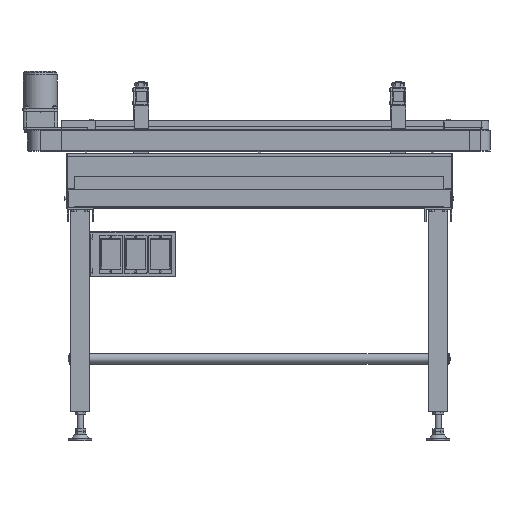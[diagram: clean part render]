
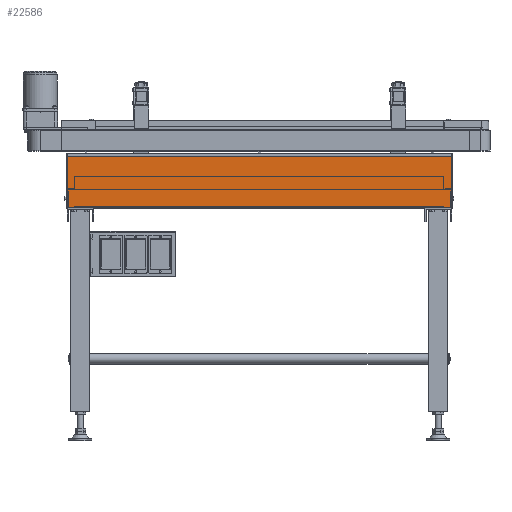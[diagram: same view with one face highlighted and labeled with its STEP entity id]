
A CAD part, top view. The second image highlights one B-rep face of the part: STEP entity #22586.
In plain terms, the highlighted planar face has unit normal (0, 0, 1).
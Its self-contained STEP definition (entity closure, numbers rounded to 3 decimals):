
#533 = LINE ( 'NONE', #22853, #41524 ) ;
#2896 = ORIENTED_EDGE ( 'NONE', *, *, #17323, .T. ) ;
#3952 = DIRECTION ( 'NONE',  ( 0., 0., -1. ) ) ;
#4157 = LINE ( 'NONE', #36228, #42090 ) ;
#4456 = DIRECTION ( 'NONE',  ( -1., 0., 0. ) ) ;
#6027 = VERTEX_POINT ( 'NONE', #49614 ) ;
#7206 = DIRECTION ( 'NONE',  ( 0., -1., 0. ) ) ;
#9359 = CARTESIAN_POINT ( 'NONE',  ( 1010., -140., 350. ) ) ;
#13070 = CARTESIAN_POINT ( 'NONE',  ( 0., -140., 350. ) ) ;
#14908 = EDGE_LOOP ( 'NONE', ( #18024, #2896, #23548, #37300 ) ) ;
#15185 = CARTESIAN_POINT ( 'NONE',  ( 1010., -140., 350. ) ) ;
#15476 = VECTOR ( 'NONE', #4456, 1000. ) ;
#17323 = EDGE_CURVE ( 'NONE', #6027, #20880, #533, .T. ) ;
#18019 = EDGE_CURVE ( 'NONE', #20880, #51560, #4157, .T. ) ;
#18024 = ORIENTED_EDGE ( 'NONE', *, *, #39256, .F. ) ;
#20880 = VERTEX_POINT ( 'NONE', #23889 ) ;
#22586 = ADVANCED_FACE ( 'NONE', ( #48296 ), #28105, .F. ) ;
#22765 = LINE ( 'NONE', #27073, #35640 ) ;
#22853 = CARTESIAN_POINT ( 'NONE',  ( 1112.489, -6., 350. ) ) ;
#23548 = ORIENTED_EDGE ( 'NONE', *, *, #18019, .T. ) ;
#23889 = CARTESIAN_POINT ( 'NONE',  ( 0., -6., 350. ) ) ;
#27073 = CARTESIAN_POINT ( 'NONE',  ( 1010., 2., 350. ) ) ;
#28105 = PLANE ( 'NONE',  #51829 ) ;
#35640 = VECTOR ( 'NONE', #41080, 1000. ) ;
#35642 = EDGE_CURVE ( 'NONE', #60352, #51560, #45932, .T. ) ;
#36228 = CARTESIAN_POINT ( 'NONE',  ( 0., 2., 350. ) ) ;
#37300 = ORIENTED_EDGE ( 'NONE', *, *, #35642, .F. ) ;
#37886 = DIRECTION ( 'NONE',  ( 0., 1., 0. ) ) ;
#39256 = EDGE_CURVE ( 'NONE', #6027, #60352, #22765, .T. ) ;
#41080 = DIRECTION ( 'NONE',  ( 0., -1., 0. ) ) ;
#41524 = VECTOR ( 'NONE', #52655, 1000. ) ;
#42090 = VECTOR ( 'NONE', #7206, 1000. ) ;
#45932 = LINE ( 'NONE', #9359, #15476 ) ;
#48296 = FACE_OUTER_BOUND ( 'NONE', #14908, .T. ) ;
#49614 = CARTESIAN_POINT ( 'NONE',  ( 1010., -6., 350. ) ) ;
#51560 = VERTEX_POINT ( 'NONE', #13070 ) ;
#51829 = AXIS2_PLACEMENT_3D ( 'NONE', #52217, #3952, #37886 ) ;
#52217 = CARTESIAN_POINT ( 'NONE',  ( 1010., 2., 350. ) ) ;
#52655 = DIRECTION ( 'NONE',  ( -1., 0., 0. ) ) ;
#60352 = VERTEX_POINT ( 'NONE', #15185 ) ;
